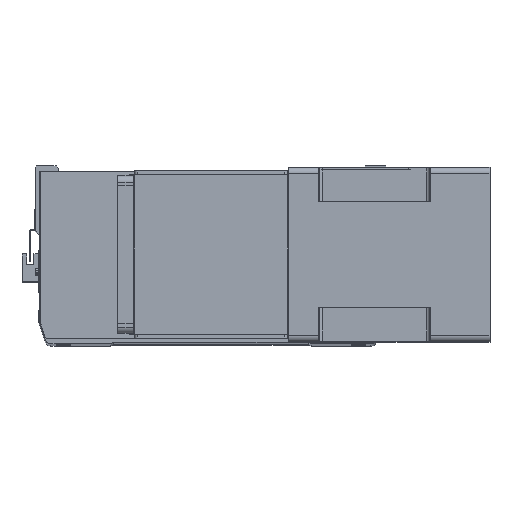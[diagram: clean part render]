
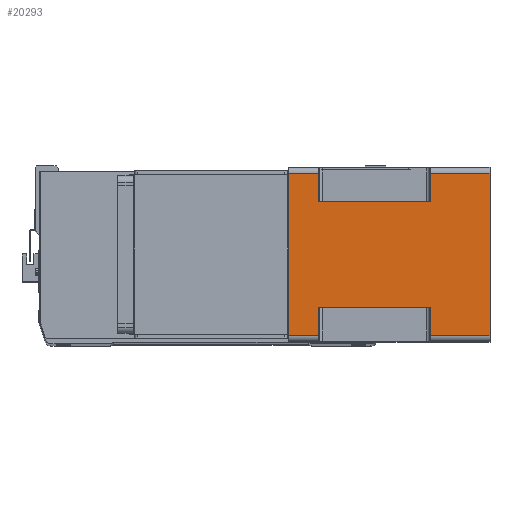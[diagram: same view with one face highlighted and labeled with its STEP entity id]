
A CAD part, top view. The second image highlights one B-rep face of the part: STEP entity #20293.
In plain terms, the highlighted planar face has unit normal (0, 0, 1) as drawn and (1, 0, 0) by its records, which use the part's own axes.
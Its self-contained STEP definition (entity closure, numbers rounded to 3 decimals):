
#225 = VERTEX_POINT ( 'NONE', #16389 ) ;
#492 = LINE ( 'NONE', #6719, #13533 ) ;
#615 = CARTESIAN_POINT ( 'NONE',  ( 71., -66., -164. ) ) ;
#1027 = VERTEX_POINT ( 'NONE', #18592 ) ;
#1292 = DIRECTION ( 'NONE',  ( 0., 0., 1. ) ) ;
#1979 = EDGE_CURVE ( 'NONE', #22063, #26194, #492, .T. ) ;
#2492 = CARTESIAN_POINT ( 'NONE',  ( 71., 43., -24.5 ) ) ;
#3241 = VECTOR ( 'NONE', #29260, 1000. ) ;
#3301 = CARTESIAN_POINT ( 'NONE',  ( 71., 66., -164. ) ) ;
#3635 = CARTESIAN_POINT ( 'NONE',  ( 71., 66., -115.5 ) ) ;
#3847 = ORIENTED_EDGE ( 'NONE', *, *, #13875, .F. ) ;
#4043 = CARTESIAN_POINT ( 'NONE',  ( 71., -43., -24.5 ) ) ;
#4409 = CARTESIAN_POINT ( 'NONE',  ( 71., 66., -164. ) ) ;
#4437 = ORIENTED_EDGE ( 'NONE', *, *, #20685, .T. ) ;
#4471 = CARTESIAN_POINT ( 'NONE',  ( 71., -43., -24.5 ) ) ;
#4706 = CARTESIAN_POINT ( 'NONE',  ( 71., -66., -164. ) ) ;
#4777 = LINE ( 'NONE', #5840, #29034 ) ;
#5055 = EDGE_CURVE ( 'NONE', #1027, #225, #8188, .T. ) ;
#5193 = CARTESIAN_POINT ( 'NONE',  ( 71., -66., -164. ) ) ;
#5441 = CARTESIAN_POINT ( 'NONE',  ( 71., 66., -164. ) ) ;
#5675 = PLANE ( 'NONE',  #17304 ) ;
#5840 = CARTESIAN_POINT ( 'NONE',  ( 71., -66., -164. ) ) ;
#5958 = EDGE_CURVE ( 'NONE', #15114, #1027, #20111, .T. ) ;
#6719 = CARTESIAN_POINT ( 'NONE',  ( 71., -66., -115.5 ) ) ;
#7146 = EDGE_CURVE ( 'NONE', #22324, #225, #19583, .T. ) ;
#7214 = LINE ( 'NONE', #5193, #30057 ) ;
#7248 = VERTEX_POINT ( 'NONE', #7497 ) ;
#7292 = EDGE_CURVE ( 'NONE', #16859, #22324, #7214, .T. ) ;
#7381 = CARTESIAN_POINT ( 'NONE',  ( 71., 43., -164. ) ) ;
#7497 = CARTESIAN_POINT ( 'NONE',  ( 71., 43., -115.5 ) ) ;
#7585 = DIRECTION ( 'NONE',  ( 0., 0., -1. ) ) ;
#7788 = VECTOR ( 'NONE', #11193, 1000. ) ;
#8066 = CARTESIAN_POINT ( 'NONE',  ( 71., -66., -164. ) ) ;
#8094 = CARTESIAN_POINT ( 'NONE',  ( 71., -66., -115.5 ) ) ;
#8138 = LINE ( 'NONE', #4706, #12861 ) ;
#8188 = LINE ( 'NONE', #5441, #18377 ) ;
#8477 = VECTOR ( 'NONE', #14695, 1000. ) ;
#9413 = EDGE_CURVE ( 'NONE', #10673, #22784, #18270, .T. ) ;
#9571 = EDGE_CURVE ( 'NONE', #20993, #10673, #8138, .T. ) ;
#10673 = VERTEX_POINT ( 'NONE', #3301 ) ;
#11193 = DIRECTION ( 'NONE',  ( 0., 0., 1. ) ) ;
#11573 = ORIENTED_EDGE ( 'NONE', *, *, #7292, .F. ) ;
#11599 = ORIENTED_EDGE ( 'NONE', *, *, #9571, .T. ) ;
#11928 = ORIENTED_EDGE ( 'NONE', *, *, #7146, .F. ) ;
#12861 = VECTOR ( 'NONE', #27864, 1000. ) ;
#13274 = CARTESIAN_POINT ( 'NONE',  ( 71., 43., -115.5 ) ) ;
#13533 = VECTOR ( 'NONE', #27670, 1000. ) ;
#13875 = EDGE_CURVE ( 'NONE', #15114, #7248, #26848, .T. ) ;
#14695 = DIRECTION ( 'NONE',  ( 0., 1., 0. ) ) ;
#15114 = VERTEX_POINT ( 'NONE', #2492 ) ;
#15681 = VECTOR ( 'NONE', #16404, 1000. ) ;
#15756 = CARTESIAN_POINT ( 'NONE',  ( 71., -43., -164. ) ) ;
#16098 = ORIENTED_EDGE ( 'NONE', *, *, #25316, .T. ) ;
#16139 = CARTESIAN_POINT ( 'NONE',  ( 71., -66., 0. ) ) ;
#16389 = CARTESIAN_POINT ( 'NONE',  ( 71., 66., 0. ) ) ;
#16404 = DIRECTION ( 'NONE',  ( 0., 1., 0. ) ) ;
#16632 = LINE ( 'NONE', #13274, #3241 ) ;
#16859 = VERTEX_POINT ( 'NONE', #29259 ) ;
#17272 = EDGE_CURVE ( 'NONE', #22063, #19413, #26989, .T. ) ;
#17304 = AXIS2_PLACEMENT_3D ( 'NONE', #615, #19382, #19185 ) ;
#17589 = ORIENTED_EDGE ( 'NONE', *, *, #19220, .F. ) ;
#17918 = ORIENTED_EDGE ( 'NONE', *, *, #17272, .F. ) ;
#18270 = LINE ( 'NONE', #4409, #22950 ) ;
#18377 = VECTOR ( 'NONE', #19618, 1000. ) ;
#18592 = CARTESIAN_POINT ( 'NONE',  ( 71., 66., -24.5 ) ) ;
#19185 = DIRECTION ( 'NONE',  ( 0., 1., 0. ) ) ;
#19220 = EDGE_CURVE ( 'NONE', #20993, #26194, #4777, .T. ) ;
#19278 = ORIENTED_EDGE ( 'NONE', *, *, #1979, .T. ) ;
#19382 = DIRECTION ( 'NONE',  ( 1., 0., 0. ) ) ;
#19413 = VERTEX_POINT ( 'NONE', #4043 ) ;
#19583 = LINE ( 'NONE', #16139, #29345 ) ;
#19618 = DIRECTION ( 'NONE',  ( 0., 0., 1. ) ) ;
#20111 = LINE ( 'NONE', #28559, #8477 ) ;
#20293 = ADVANCED_FACE ( 'NONE', ( #20794 ), #5675, .T. ) ;
#20685 = EDGE_CURVE ( 'NONE', #16859, #19413, #26178, .T. ) ;
#20726 = VECTOR ( 'NONE', #7585, 1000. ) ;
#20794 = FACE_OUTER_BOUND ( 'NONE', #28411, .T. ) ;
#20993 = VERTEX_POINT ( 'NONE', #8066 ) ;
#21152 = ORIENTED_EDGE ( 'NONE', *, *, #5958, .T. ) ;
#21372 = DIRECTION ( 'NONE',  ( 0., 0., 1. ) ) ;
#22063 = VERTEX_POINT ( 'NONE', #28647 ) ;
#22324 = VERTEX_POINT ( 'NONE', #22560 ) ;
#22560 = CARTESIAN_POINT ( 'NONE',  ( 71., -66., 0. ) ) ;
#22687 = DIRECTION ( 'NONE',  ( 0., 0., 1. ) ) ;
#22784 = VERTEX_POINT ( 'NONE', #3635 ) ;
#22950 = VECTOR ( 'NONE', #22687, 1000. ) ;
#23095 = DIRECTION ( 'NONE',  ( 0., 1., 0. ) ) ;
#23688 = ORIENTED_EDGE ( 'NONE', *, *, #9413, .T. ) ;
#25316 = EDGE_CURVE ( 'NONE', #22784, #7248, #16632, .T. ) ;
#26178 = LINE ( 'NONE', #4471, #15681 ) ;
#26194 = VERTEX_POINT ( 'NONE', #8094 ) ;
#26848 = LINE ( 'NONE', #7381, #20726 ) ;
#26989 = LINE ( 'NONE', #15756, #7788 ) ;
#27670 = DIRECTION ( 'NONE',  ( 0., -1., 0. ) ) ;
#27864 = DIRECTION ( 'NONE',  ( 0., 1., 0. ) ) ;
#28411 = EDGE_LOOP ( 'NONE', ( #17918, #19278, #17589, #11599, #23688, #16098, #3847, #21152, #29831, #11928, #11573, #4437 ) ) ;
#28559 = CARTESIAN_POINT ( 'NONE',  ( 71., -66., -24.5 ) ) ;
#28647 = CARTESIAN_POINT ( 'NONE',  ( 71., -43., -115.5 ) ) ;
#29034 = VECTOR ( 'NONE', #1292, 1000. ) ;
#29259 = CARTESIAN_POINT ( 'NONE',  ( 71., -66., -24.5 ) ) ;
#29260 = DIRECTION ( 'NONE',  ( 0., -1., 0. ) ) ;
#29345 = VECTOR ( 'NONE', #23095, 1000. ) ;
#29831 = ORIENTED_EDGE ( 'NONE', *, *, #5055, .T. ) ;
#30057 = VECTOR ( 'NONE', #21372, 1000. ) ;
